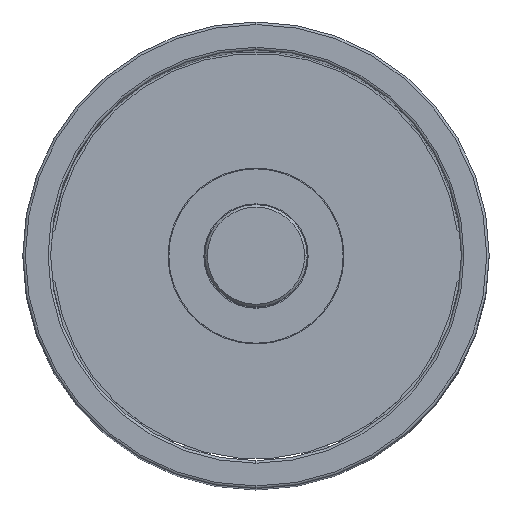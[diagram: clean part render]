
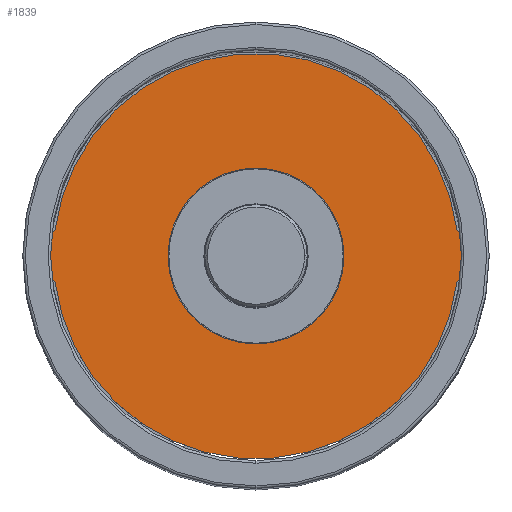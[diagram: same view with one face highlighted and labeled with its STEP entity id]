
A CAD part, top view. The second image highlights one B-rep face of the part: STEP entity #1839.
In plain terms, the highlighted planar face has unit normal (0, 0, 1).
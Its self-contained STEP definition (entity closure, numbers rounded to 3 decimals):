
#1701=CARTESIAN_POINT('',(17.2,0.,0.));
#1702=VERTEX_POINT('',#1701);
#1718=CARTESIAN_POINT('',(-17.2,0.,0.0));
#1719=VERTEX_POINT('',#1718);
#1726=CARTESIAN_POINT('',(0.0,0.,0.0));
#1727=DIRECTION('',(0.0,0.0,-1.0));
#1728=DIRECTION('',(1.0,0.0,0.0));
#1729=AXIS2_PLACEMENT_3D('',#1726,#1727,#1728);
#1730=CIRCLE('',#1729,17.2);
#1731=EDGE_CURVE('',#1702,#1719,#1730,.T.);
#1742=CARTESIAN_POINT('',(0.0,0.,0.0));
#1743=DIRECTION('',(0.0,0.0,-1.0));
#1744=DIRECTION('',(1.0,0.0,0.0));
#1745=AXIS2_PLACEMENT_3D('',#1742,#1743,#1744);
#1746=CIRCLE('',#1745,17.2);
#1747=EDGE_CURVE('',#1719,#1702,#1746,.T.);
#1767=CARTESIAN_POINT('',(-39.345,4.907,0.));
#1768=VERTEX_POINT('',#1767);
#1784=CARTESIAN_POINT('',(-39.345,-4.907,0.));
#1785=VERTEX_POINT('',#1784);
#1792=CARTESIAN_POINT('',(-37.625,0.,0.));
#1793=DIRECTION('',(0.0,0.0,-1.0));
#1794=DIRECTION('',(1.0,0.0,0.0));
#1795=AXIS2_PLACEMENT_3D('',#1792,#1793,#1794);
#1796=CIRCLE('',#1795,5.2);
#1797=EDGE_CURVE('',#1785,#1768,#1796,.T.);
#1802=CARTESIAN_POINT('',(0.0,0.,0.));
#1803=DIRECTION('',(0.0,0.0,1.0));
#1804=DIRECTION('',(1.0,0.0,0.0));
#1805=AXIS2_PLACEMENT_3D('',#1802,#1803,#1804);
#1806=PLANE('',#1805);
#1807=CARTESIAN_POINT('',(39.345,-4.907,0.));
#1808=VERTEX_POINT('',#1807);
#1809=CARTESIAN_POINT('',(0.0,0.,0.));
#1810=DIRECTION('',(0.0,0.0,-1.0));
#1811=DIRECTION('',(1.0,0.0,0.0));
#1812=AXIS2_PLACEMENT_3D('',#1809,#1810,#1811);
#1813=CIRCLE('',#1812,39.65);
#1814=EDGE_CURVE('',#1808,#1785,#1813,.T.);
#1815=ORIENTED_EDGE('',*,*,#1814,.F.);
#1816=CARTESIAN_POINT('',(39.345,4.907,0.));
#1817=VERTEX_POINT('',#1816);
#1818=CARTESIAN_POINT('',(37.625,0.,0.));
#1819=DIRECTION('',(0.0,0.0,-1.0));
#1820=DIRECTION('',(1.0,0.0,0.0));
#1821=AXIS2_PLACEMENT_3D('',#1818,#1819,#1820);
#1822=CIRCLE('',#1821,5.2);
#1823=EDGE_CURVE('',#1817,#1808,#1822,.T.);
#1824=ORIENTED_EDGE('',*,*,#1823,.F.);
#1825=CARTESIAN_POINT('',(0.0,0.,0.));
#1826=DIRECTION('',(0.0,0.0,-1.0));
#1827=DIRECTION('',(1.0,0.0,0.0));
#1828=AXIS2_PLACEMENT_3D('',#1825,#1826,#1827);
#1829=CIRCLE('',#1828,39.65);
#1830=EDGE_CURVE('',#1768,#1817,#1829,.T.);
#1831=ORIENTED_EDGE('',*,*,#1830,.F.);
#1832=ORIENTED_EDGE('',*,*,#1797,.F.);
#1833=EDGE_LOOP('',(#1815,#1824,#1831,#1832));
#1834=FACE_OUTER_BOUND('',#1833,.T.);
#1835=ORIENTED_EDGE('',*,*,#1731,.T.);
#1836=ORIENTED_EDGE('',*,*,#1747,.T.);
#1837=EDGE_LOOP('',(#1835,#1836));
#1838=FACE_BOUND('',#1837,.T.);
#1839=ADVANCED_FACE('',(#1834,#1838),#1806,.T.);
